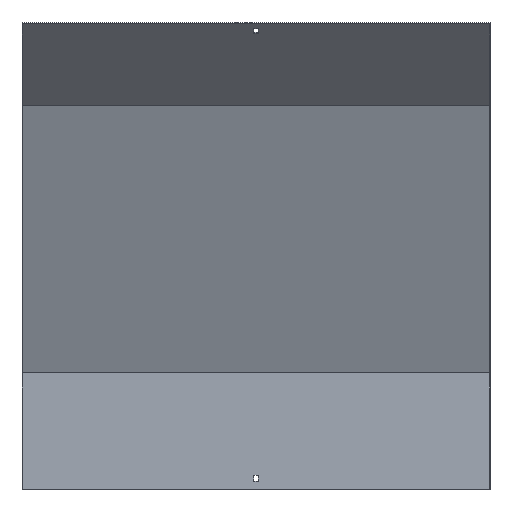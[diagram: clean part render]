
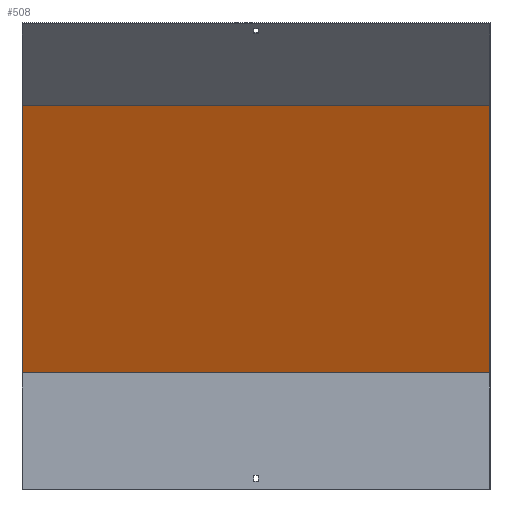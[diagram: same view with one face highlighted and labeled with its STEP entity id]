
A CAD part, front view. The second image highlights one B-rep face of the part: STEP entity #508.
In plain terms, the highlighted planar face has unit normal (0, -0.924, -0.383).
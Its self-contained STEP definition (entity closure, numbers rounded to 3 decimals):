
#1 = VERTEX_POINT ( 'NONE', #574 ) ;
#21 = ORIENTED_EDGE ( 'NONE', *, *, #67, .T. ) ;
#22 = DIRECTION ( 'NONE',  ( -1., 0., 0. ) ) ;
#42 = VECTOR ( 'NONE', #22, 1000. ) ;
#67 = EDGE_CURVE ( 'NONE', #229, #852, #842, .T. ) ;
#137 = VECTOR ( 'NONE', #525, 1000. ) ;
#156 = DIRECTION ( 'NONE',  ( 0., -0.383, 0.924 ) ) ;
#176 = CARTESIAN_POINT ( 'NONE',  ( -350., -147.34, 576.052 ) ) ;
#196 = ORIENTED_EDGE ( 'NONE', *, *, #240, .T. ) ;
#201 = EDGE_CURVE ( 'NONE', #1, #284, #267, .T. ) ;
#202 = PLANE ( 'NONE',  #829 ) ;
#223 = DIRECTION ( 'NONE',  ( 0., -0.383, 0.924 ) ) ;
#229 = VERTEX_POINT ( 'NONE', #624 ) ;
#240 = EDGE_CURVE ( 'NONE', #1, #229, #430, .T. ) ;
#267 = LINE ( 'NONE', #272, #137 ) ;
#272 = CARTESIAN_POINT ( 'NONE',  ( 351.5, 18.5, 175.68 ) ) ;
#284 = VERTEX_POINT ( 'NONE', #561 ) ;
#290 = LINE ( 'NONE', #362, #658 ) ;
#362 = CARTESIAN_POINT ( 'NONE',  ( -350., 77.903, 32.268 ) ) ;
#417 = VECTOR ( 'NONE', #223, 1000. ) ;
#430 = LINE ( 'NONE', #484, #417 ) ;
#484 = CARTESIAN_POINT ( 'NONE',  ( 350., 77.903, 32.268 ) ) ;
#508 = ADVANCED_FACE ( 'NONE', ( #654 ), #202, .T. ) ;
#525 = DIRECTION ( 'NONE',  ( -1., 0., 0. ) ) ;
#561 = CARTESIAN_POINT ( 'NONE',  ( -350., 18.5, 175.68 ) ) ;
#574 = CARTESIAN_POINT ( 'NONE',  ( 350., 18.5, 175.68 ) ) ;
#590 = DIRECTION ( 'NONE',  ( 0., -0.924, -0.383 ) ) ;
#624 = CARTESIAN_POINT ( 'NONE',  ( 350., -147.34, 576.052 ) ) ;
#654 = FACE_OUTER_BOUND ( 'NONE', #701, .T. ) ;
#658 = VECTOR ( 'NONE', #156, 1000. ) ;
#681 = ORIENTED_EDGE ( 'NONE', *, *, #201, .F. ) ;
#683 = EDGE_CURVE ( 'NONE', #284, #852, #290, .T. ) ;
#701 = EDGE_LOOP ( 'NONE', ( #712, #681, #196, #21 ) ) ;
#712 = ORIENTED_EDGE ( 'NONE', *, *, #683, .F. ) ;
#731 = CARTESIAN_POINT ( 'NONE',  ( 351.5, -147.34, 576.052 ) ) ;
#804 = CARTESIAN_POINT ( 'NONE',  ( 351.5, 17.092, 179.08 ) ) ;
#810 = DIRECTION ( 'NONE',  ( 0., 0.383, -0.924 ) ) ;
#829 = AXIS2_PLACEMENT_3D ( 'NONE', #804, #590, #810 ) ;
#842 = LINE ( 'NONE', #731, #42 ) ;
#852 = VERTEX_POINT ( 'NONE', #176 ) ;
